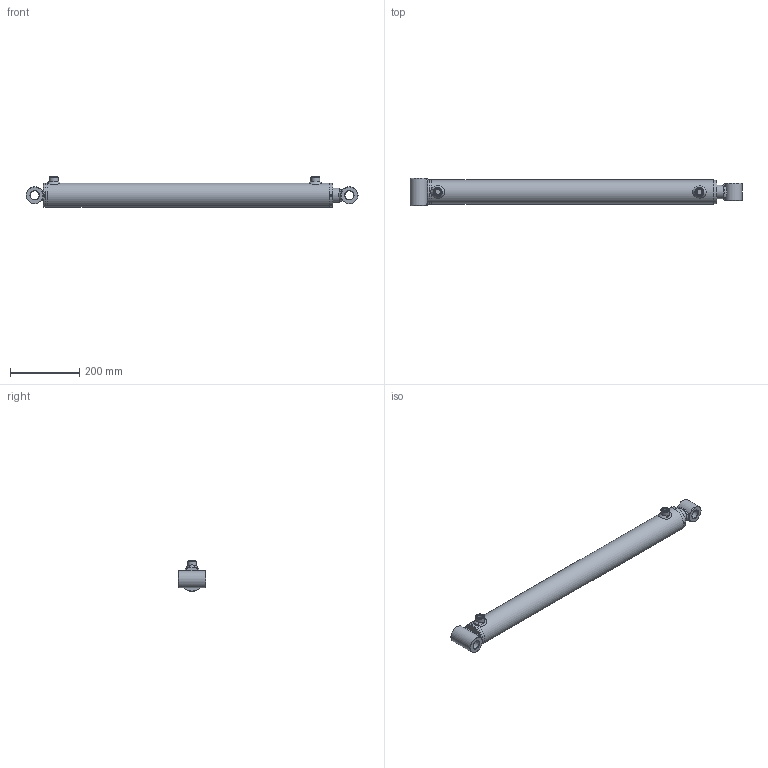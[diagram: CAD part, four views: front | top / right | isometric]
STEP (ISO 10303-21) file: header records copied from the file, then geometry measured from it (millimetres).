
FILE_DESCRIPTION( ( 'Unknown' ), '1' );
FILE_NAME( 'E:/LIBRERIA_3d/CILINDRI/HM2/HM23400700.stp', 'Unknown', ( 'Unknown' ), ( 'Unknown' ), 'PSStep 17.0.49', 'Unknown', ' ' );
FILE_SCHEMA( ( 'AUTOMOTIVE_DESIGN { 1 0 10303 214 1 1 1 1 }' ) );
Length unit declared in the file: millimetre
Products named in the file (26): CT00060027; CG07006040; STL3500700-oa6; Saldatura d'angolo 1-oa4; MAT_PRIMA_TUBO_FT07006000-oa5; CBSC220600; HM03400700; Saldatura con preparazione 1-oa2; Saldatura d'angolo 1-oa3; CF00060070; CBS0600000; APG0600000; CDB0002720; SBL4040700; Assem1; CB25050080; CB25050050; Saldatura d'angolo 1-oa0; Saldatura d'angolo 2-oa1
Assembly tree (18 placements, depth 4):
  Saldatura d'angolo 1-oa4
  Saldatura d'angolo 1-oa4
  Saldatura d'angolo 1-oa3
  Saldatura d'angolo 1-oa3
  Assem1
    CB25050080
    CB25050050
    HM03400700
      Saldatura con preparazione 1-oa2
      Saldatura con preparazione 1-oa2
      CF00060070
      CBS0600000
      APG0600000  x2
      CDB0002720
      SBL4040700
      CG07006040
        CG07006040
      CT00060027
        CT00060027
      STL3500700-oa6
        MAT_PRIMA_TUBO_FT07006000-oa5
        CBSC220600
Bounding box: 960 x 80 x 89 mm (x, y, z)
Volume: 2294203.5 mm3; surface area: 576510.2 mm2
Topology: 22 solids, 22 shells, 314 faces, 692 edges, 401 vertices
Faces by surface type: bspline 98, cylinder 73, plane 62, cone 43, torus 38
Full cylindrical faces by diameter (mm): 4.25 x1, 5 x2, 6 x2, 7 x2, 14.95 x2, 16 x2, 16.6 x2, 22 x2, 25.25 x2, 26 x4, 26.4 x1, 27 x5, 33.2 x1, 40 x4, 41 x1, 42 x1, 43 x1, 44 x1, 48 x1, 48.6 x1, 50 x2, 55 x1, 55.39 x2, 58.65 x2, 59.9 x1, 60 x1, 60.3 x1, 60.5 x1, 60.6 x1, 61 x1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
Entity records: 14770 total; most frequent: CARTESIAN_POINT 7195, ORIENTED_EDGE 910, DIRECTION 858, EDGE_LOOP 486, EDGE_CURVE 455, AXIS2_PLACEMENT_3D 417, FACE_OUTER_BOUND 399, VERTEX_POINT 344
